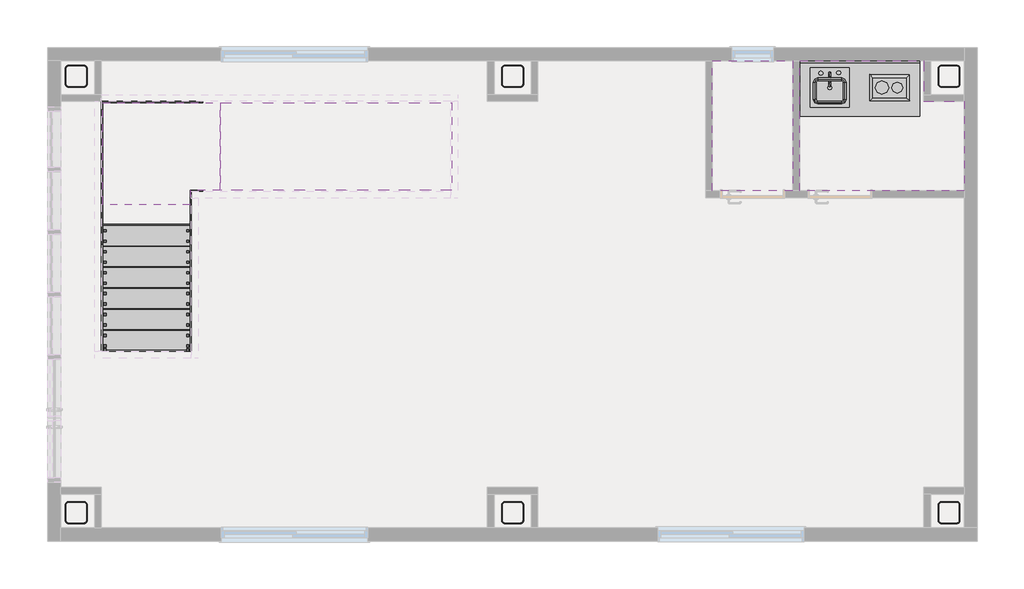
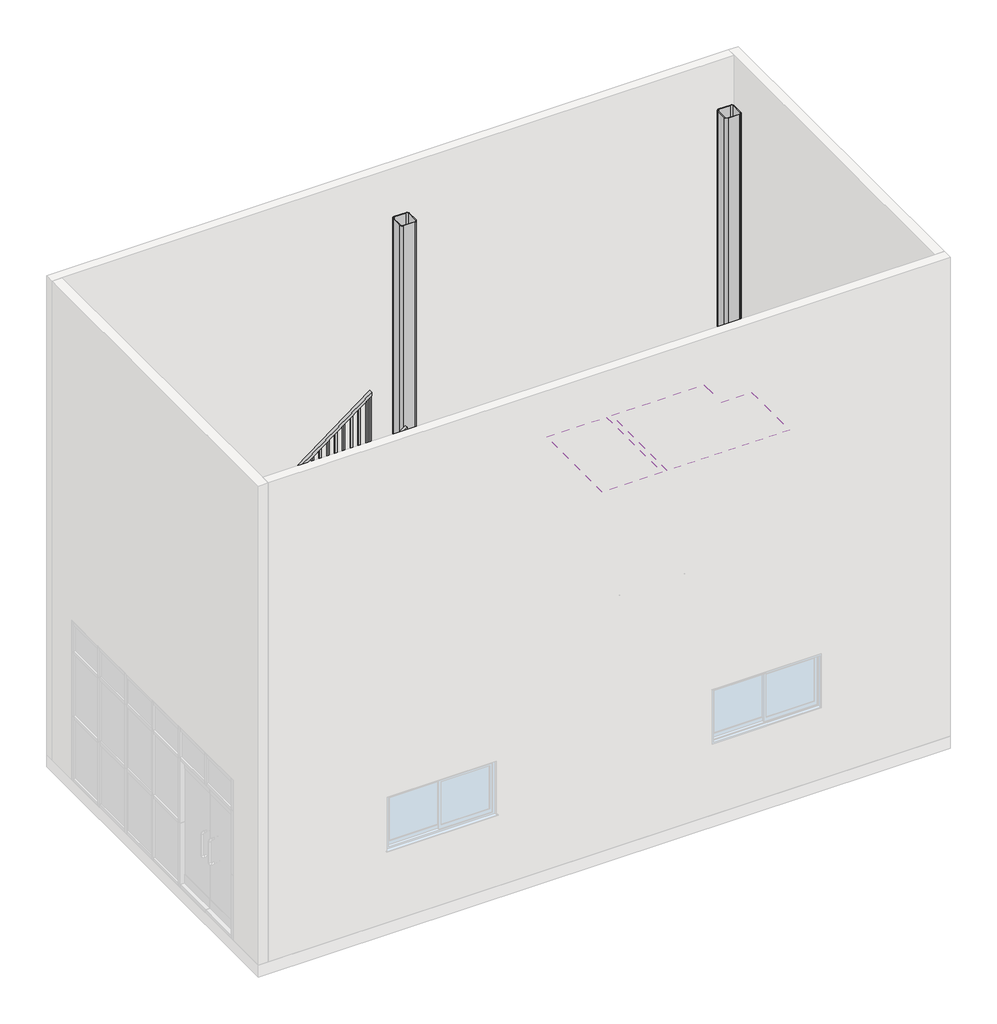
# One storey, part 2 of 2: 7 members, 6 columns, 2 coverings, 2 proxies, 2 railings, 2 stair flights, 1 flow terminal, 1 furniture element, 1 slab.
"""IFC4 building model written with IfcOpenShell, lengths in millimetres."""

from ifc_helpers import new_model, si_unit, frame, origin, place, context, project, spatial, polyline, outline, extrude, faceted_brep, transform, mapped, element, save
from components import proxy_1372mm_902c12d3, proxy_305_x_457mm_75991893, hss250x250x12_d809ddac, flow_terminal_450_x_450mm_65598b4f, furniture_600mm_61525606, slab_593adf1e, stair_flight_b28b8e51, stair_flight_15dfc8d3

model = new_model("IFC4")

# Units and contexts
model_context = context("Model", 3, world=origin())
ifc_project = project(units=[si_unit("LENGTHUNIT", "METRE", prefix="MILLI")], contexts=[model_context])

# Site, building, storey
site = spatial("IfcSite", under=ifc_project)
building = spatial("IfcBuilding", under=site)
storey = spatial("IfcBuildingStorey", under=building, Name="1階", Elevation=200.0)

# Proxies
placement = place(None, origin())
proxy_1372mm_shape = proxy_1372mm_902c12d3(model_context)
element("IfcBuildingElementProxy", 1, Name="システムキッチン - スケール(小) - 3D : 1372mm", ObjectType="システムキッチン - スケール(小) - 3D : 1372mm", at=placement, inside=storey, context=model_context, shape_type="MappedRepresentation", body=[
    mapped(proxy_1372mm_shape, transform((3909.3742386, 2761.0382733, 200.0), x_axis=(1.0, 0.0, 0.0), y_axis=(0.0, 1.0, 0.0), z_axis=(0.0, 0.0, 1.0))),
])
proxy_305_x_457mm_shape = proxy_305_x_457mm_75991893(model_context)
element("IfcBuildingElementProxy", 2, Name="レンジ台-2 ユニット : 305 x 457mm", ObjectType="レンジ台-2 ユニット : 305 x 457mm", at=placement, inside=storey, context=model_context, shape_type="MappedRepresentation", body=[
    mapped(proxy_305_x_457mm_shape, transform((4301.3367391, 2379.8382733, 240.0), x_axis=(0.0, 1.0, 0.0), y_axis=(-1.0, 0.0, 0.0), z_axis=(0.0, 0.0, 1.0))),
])

# Columns
hss250x250x12_shape = hss250x250x12_d809ddac(model_context)
element("IfcColumn", 3, ObjectType="正方型鋼管-柱 : HSS250x250x12", at=placement, inside=storey, context=model_context, shape_type="MappedRepresentation", body=[
    mapped(hss250x250x12_shape, transform((-5047.3880564, -2413.9617267, 0.0), x_axis=(-1.0, 0.0, 0.0), y_axis=(0.0, -1.0, 0.0), z_axis=(0.0, 0.0, 1.0))),
])
element("IfcColumn", 4, ObjectType="正方型鋼管-柱 : HSS250x250x12", at=placement, inside=storey, context=model_context, shape_type="MappedRepresentation", body=[
    mapped(hss250x250x12_shape, transform((-5047.3880564, 2586.0382733, 0.0), x_axis=(-1.0, 0.0, 0.0), y_axis=(0.0, -1.0, 0.0), z_axis=(0.0, 0.0, 1.0))),
])
element("IfcColumn", 5, ObjectType="正方型鋼管-柱 : HSS250x250x12", at=placement, inside=storey, context=model_context, shape_type="MappedRepresentation", body=[
    mapped(hss250x250x12_shape, transform((-47.3880564, -2413.9617267, 0.0), x_axis=(-1.0, 0.0, 0.0), y_axis=(0.0, -1.0, 0.0), z_axis=(0.0, 0.0, 1.0))),
])
element("IfcColumn", 6, ObjectType="正方型鋼管-柱 : HSS250x250x12", at=placement, inside=storey, context=model_context, shape_type="MappedRepresentation", body=[
    mapped(hss250x250x12_shape, transform((-47.3880564, 2586.0382733, 0.0), x_axis=(-1.0, 0.0, 0.0), y_axis=(0.0, -1.0, 0.0), z_axis=(0.0, 0.0, 1.0))),
])
element("IfcColumn", 7, ObjectType="正方型鋼管-柱 : HSS250x250x12", at=placement, inside=storey, context=model_context, shape_type="MappedRepresentation", body=[
    mapped(hss250x250x12_shape, transform((4952.6119436, -2413.9617267, 0.0), x_axis=(-1.0, 0.0, 0.0), y_axis=(0.0, -1.0, 0.0), z_axis=(0.0, 0.0, 1.0))),
])
element("IfcColumn", 8, ObjectType="正方型鋼管-柱 : HSS250x250x12", at=placement, inside=storey, context=model_context, shape_type="MappedRepresentation", body=[
    mapped(hss250x250x12_shape, transform((4952.6119436, 2586.0382733, 0.0), x_axis=(-1.0, 0.0, 0.0), y_axis=(0.0, -1.0, 0.0), z_axis=(0.0, 0.0, 1.0))),
])

# Coverings
element("IfcCovering", 9, ObjectType="グリッド 600x600mm", at=placement, inside=storey, context=model_context, shape_type="SweptSolid", body=[
    extrude(outline(polyline([(2242.1119436, 2761.0382733), (3163.1119436, 2761.0382733), (3163.1119436, 1275.5382733), (2242.1119436, 1275.5382733), (2242.1119436, 2761.0382733)])), frame((0.0, 0.0, 2800.0), z_axis=(0.0, 0.0, 1.0), x_axis=(1.0, 0.0, 0.0)), (0.0, 0.0, 1.0), 52.0),
])
element("IfcCovering", 10, ObjectType="グリッド 600x600mm", at=placement, inside=storey, context=model_context, shape_type="SweptSolid", body=[
    extrude(outline(polyline([(3242.1119436, 1275.5382733), (3242.1119436, 2761.0382733), (4663.1119436, 2761.0382733), (4663.1119436, 2296.5382733), (5127.6119436, 2296.5382733), (5127.6119436, 1275.5382733), (3242.1119436, 1275.5382733)])), frame((0.0, 0.0, 2800.0), z_axis=(0.0, 0.0, 1.0), x_axis=(1.0, 0.0, 0.0)), (0.0, 0.0, 1.0), 52.0),
])

# Flow terminal
flow_terminal_450_x_450mm_shape = flow_terminal_450_x_450mm_65598b4f(model_context)
element("IfcFlowTerminal", 11, ObjectType="シンク キッチン - アイランド : 450 x 450mm", at=placement, inside=storey, context=model_context, shape_type="MappedRepresentation", body=[
    mapped(flow_terminal_450_x_450mm_shape, transform((3569.422703, 2453.6928722, 240.0), x_axis=(1.0, 0.0, 0.0), y_axis=(0.0, 1.0, 0.0), z_axis=(0.0, 0.0, 1.0))),
])

# Furniture
furniture_600mm_shape = furniture_600mm_61525606(model_context)
element("IfcFurniture", 12, ObjectType="カウンタ シンク開口付 : 600mm", at=placement, inside=storey, context=model_context, shape_type="MappedRepresentation", body=[
    mapped(furniture_600mm_shape, transform((4442.5742386, 2761.0382733, 240.0), x_axis=(1.0, 0.0, 0.0), y_axis=(0.0, 1.0, 0.0), z_axis=(0.0, 0.0, 1.0))),
])

# Members
element("IfcMember", 13, ObjectType="側桁 - メタル - 15 mm 幅 50 mm 奥行き", at=placement, inside=storey, context=model_context, shape_type="SweptSolid", body=[
    extrude(outline(polyline([(-563.9617267, 200.0), (-563.9617267, 486.25), (1021.0382733, 1675.0), (1121.0382733, 1375.0), (-445.6283934, 200.0), (-563.9617267, 200.0)])), frame((-4757.8880564, 0.0, 0.0), z_axis=(1.0, 0.0, 0.0), x_axis=(0.0, 1.0, 0.0)), (0.0, 0.0, 1.0), 15.0),
])
element("IfcMember", 14, ObjectType="側桁 - メタル - 15 mm 幅 50 mm 奥行き", at=placement, inside=storey, context=model_context, shape_type="SweptSolid", body=[
    extrude(outline(polyline([(-563.9617267, 200.0), (-563.9617267, 486.25), (1021.0382733, 1675.0), (1121.0382733, 1375.0), (-445.6283934, 200.0), (-563.9617267, 200.0)])), frame((-3742.8880564, 0.0, 0.0), z_axis=(1.0, 0.0, 0.0), x_axis=(0.0, 1.0, 0.0)), (0.0, 0.0, 1.0), 15.0),
])
element("IfcMember", 15, ObjectType="側桁 - メタル - 15 mm 幅 50 mm 奥行き", at=placement, inside=storey, context=model_context, shape_type="SweptSolid", body=[
    extrude(outline(polyline([(1675.0, -3732.3880564), (1375.0, -3632.3880564), (3531.25, -757.3880564), (3906.25, -757.3880564), (1675.0, -3732.3880564)])), frame((0.0, 2281.5382733, 0.0), z_axis=(0.0, 1.0, 0.0), x_axis=(0.0, 0.0, 1.0)), (0.0, 0.0, 1.0), 15.0),
])
element("IfcMember", 16, ObjectType="側桁 - メタル - 15 mm 幅 50 mm 奥行き", at=placement, inside=storey, context=model_context, shape_type="SweptSolid", body=[
    extrude(outline(polyline([(1678.375, -3727.8880564), (1375.0, -3727.8880564), (1375.0, -3632.3880564), (3531.25, -757.3880564), (3906.25, -757.3880564), (1678.375, -3727.8880564)])), frame((0.0, 1266.5382733, 0.0), z_axis=(0.0, 1.0, 0.0), x_axis=(0.0, 0.0, 1.0)), (0.0, 0.0, 1.0), 15.0),
])
element("IfcMember", 17, ObjectType="側桁 - メタル - 15 mm 幅 50 mm 奥行き", at=placement, inside=storey, context=model_context, shape_type="Brep", body=[
    faceted_brep([(-3732.3880564, 2281.5382733, 1675.0), (-3732.3880564, 2296.5382733, 1675.0), (-4757.8880564, 2296.5382733, 1675.0), (-4742.8880564, 2281.5382733, 1675.0), (-3632.3880564, 2281.5382733, 1375.0), (-4742.8880564, 2281.5382733, 1375.0), (-3632.3880564, 2296.5382733, 1375.0), (-4757.8880564, 2296.5382733, 1375.0)], [[[0, 1, 2, 3]], [[4, 0, 3, 5]], [[6, 4, 5, 7]], [[1, 6, 7, 2]], [[1, 0, 4, 6]], [[2, 7, 5, 3]]]),
])
element("IfcMember", 18, ObjectType="側桁 - メタル - 15 mm 幅 50 mm 奥行き", at=placement, inside=storey, context=model_context, shape_type="Brep", body=[
    faceted_brep([(-4742.8880564, 2281.5382733, 1675.0), (-4757.8880564, 2296.5382733, 1675.0), (-4757.8880564, 1021.0382733, 1675.0), (-4742.8880564, 1021.0382733, 1675.0), (-4742.8880564, 2281.5382733, 1375.0), (-4742.8880564, 1121.0382733, 1375.0), (-4757.8880564, 2296.5382733, 1375.0), (-4757.8880564, 1121.0382733, 1375.0)], [[[0, 1, 2, 3]], [[4, 0, 3, 5]], [[6, 4, 5, 7]], [[1, 6, 7, 2]], [[1, 0, 4, 6]], [[2, 7, 5, 3]]]),
])
element("IfcMember", 19, ObjectType="側桁 - メタル - 15 mm 幅 50 mm 奥行き", at=placement, inside=storey, context=model_context, shape_type="SweptSolid", body=[
    extrude(outline(polyline([(1121.0382733, 1375.0), (1021.0382733, 1675.0), (1281.5382733, 1675.0), (1281.5382733, 1375.0), (1121.0382733, 1375.0)])), frame((-3742.8880564, 0.0, 0.0), z_axis=(1.0, 0.0, 0.0), x_axis=(0.0, 1.0, 0.0)), (0.0, 0.0, 1.0), 15.0),
])

# Railings
element("IfcRailing", 20, ObjectType="1100mm", at=placement, inside=storey, context=model_context, shape_type="SolidModel", body=[
    faceted_brep([(-3793.2880564, -563.9617267, 1480.0), (-3793.2880564, -563.9617267, 1417.5), (-3743.2880564, -563.9617267, 1417.5), (-3743.2880564, -563.9617267, 1480.0), (-3793.2880564, 1116.0382733, 2740.0), (-3793.2880564, 1132.7049399, 2690.0), (-3743.2880564, 1132.7049399, 2690.0), (-3743.2880564, 1116.0382733, 2740.0), (-3793.2880564, 1331.9382733, 2740.0), (-3793.2880564, 1331.9382733, 2690.0), (-3743.2880564, 1281.9382733, 2690.0), (-3743.2880564, 1281.9382733, 2740.0), (-3637.3880564, 1331.9382733, 2740.0), (-3620.7213898, 1331.9382733, 2690.0), (-3620.7213898, 1281.9382733, 2690.0), (-3637.3880564, 1281.9382733, 2740.0), (-3397.3880564, 1331.9382733, 2920.0), (-3367.3880564, 1331.9382733, 2880.0), (-3367.3880564, 1281.9382733, 2880.0), (-3397.3880564, 1281.9382733, 2920.0), (-757.3880564, 1331.9382733, 4900.0), (-757.3880564, 1281.9382733, 4900.0), (-757.3880564, 1281.9382733, 4837.5), (-757.3880564, 1331.9382733, 4837.5)], [[[0, 1, 2, 3]], [[1, 0, 4, 5]], [[2, 1, 5, 6]], [[3, 2, 6, 7]], [[0, 3, 7, 4]], [[5, 4, 8, 9]], [[6, 5, 9, 10]], [[7, 6, 10, 11]], [[4, 7, 11, 8]], [[9, 8, 12, 13]], [[10, 9, 13, 14]], [[11, 10, 14, 15]], [[8, 11, 15, 12]], [[13, 12, 16, 17]], [[14, 13, 17, 18]], [[15, 14, 18, 19]], [[12, 15, 19, 16]], [[20, 21, 22, 23]], [[17, 16, 20, 23]], [[18, 17, 23, 22]], [[19, 18, 22, 21]], [[16, 19, 21, 20]]]),
    extrude(outline(polyline([(4783.125, -829.8880564), (3620.0, -829.8880564), (3620.0, -804.8880564), (4801.875, -804.8880564), (4783.125, -829.8880564)])), frame((0.0, 1294.4382733, 0.0), z_axis=(0.0, 1.0, 0.0), x_axis=(0.0, 0.0, 1.0)), (0.0, 0.0, 1.0), 25.0),
    extrude(outline(polyline([(4693.125, -949.8880564), (3620.0, -949.8880564), (3620.0, -924.8880564), (4711.875, -924.8880564), (4693.125, -949.8880564)])), frame((0.0, 1294.4382733, 0.0), z_axis=(0.0, 1.0, 0.0), x_axis=(0.0, 0.0, 1.0)), (0.0, 0.0, 1.0), 25.0),
    extrude(outline(polyline([(4603.125, -1069.8880564), (3440.0, -1069.8880564), (3440.0, -1044.8880564), (4621.875, -1044.8880564), (4603.125, -1069.8880564)])), frame((0.0, 1294.4382733, 0.0), z_axis=(0.0, 1.0, 0.0), x_axis=(0.0, 0.0, 1.0)), (0.0, 0.0, 1.0), 25.0),
    extrude(outline(polyline([(4513.125, -1189.8880564), (3440.0, -1189.8880564), (3440.0, -1164.8880564), (4531.875, -1164.8880564), (4513.125, -1189.8880564)])), frame((0.0, 1294.4382733, 0.0), z_axis=(0.0, 1.0, 0.0), x_axis=(0.0, 0.0, 1.0)), (0.0, 0.0, 1.0), 25.0),
    extrude(outline(polyline([(4423.125, -1309.8880564), (3260.0, -1309.8880564), (3260.0, -1284.8880564), (4441.875, -1284.8880564), (4423.125, -1309.8880564)])), frame((0.0, 1294.4382733, 0.0), z_axis=(0.0, 1.0, 0.0), x_axis=(0.0, 0.0, 1.0)), (0.0, 0.0, 1.0), 25.0),
    extrude(outline(polyline([(4333.125, -1429.8880564), (3260.0, -1429.8880564), (3260.0, -1404.8880564), (4351.875, -1404.8880564), (4333.125, -1429.8880564)])), frame((0.0, 1294.4382733, 0.0), z_axis=(0.0, 1.0, 0.0), x_axis=(0.0, 0.0, 1.0)), (0.0, 0.0, 1.0), 25.0),
    extrude(outline(polyline([(4243.125, -1549.8880564), (3080.0, -1549.8880564), (3080.0, -1524.8880564), (4261.875, -1524.8880564), (4243.125, -1549.8880564)])), frame((0.0, 1294.4382733, 0.0), z_axis=(0.0, 1.0, 0.0), x_axis=(0.0, 0.0, 1.0)), (0.0, 0.0, 1.0), 25.0),
    extrude(outline(polyline([(4153.125, -1669.8880564), (3080.0, -1669.8880564), (3080.0, -1644.8880564), (4171.875, -1644.8880564), (4153.125, -1669.8880564)])), frame((0.0, 1294.4382733, 0.0), z_axis=(0.0, 1.0, 0.0), x_axis=(0.0, 0.0, 1.0)), (0.0, 0.0, 1.0), 25.0),
    extrude(outline(polyline([(4063.125, -1789.8880564), (2900.0, -1789.8880564), (2900.0, -1764.8880564), (4081.875, -1764.8880564), (4063.125, -1789.8880564)])), frame((0.0, 1294.4382733, 0.0), z_axis=(0.0, 1.0, 0.0), x_axis=(0.0, 0.0, 1.0)), (0.0, 0.0, 1.0), 25.0),
    extrude(outline(polyline([(3973.125, -1909.8880564), (2900.0, -1909.8880564), (2900.0, -1884.8880564), (3991.875, -1884.8880564), (3973.125, -1909.8880564)])), frame((0.0, 1294.4382733, 0.0), z_axis=(0.0, 1.0, 0.0), x_axis=(0.0, 0.0, 1.0)), (0.0, 0.0, 1.0), 25.0),
    extrude(outline(polyline([(3883.125, -2029.8880564), (2720.0, -2029.8880564), (2720.0, -2004.8880564), (3901.875, -2004.8880564), (3883.125, -2029.8880564)])), frame((0.0, 1294.4382733, 0.0), z_axis=(0.0, 1.0, 0.0), x_axis=(0.0, 0.0, 1.0)), (0.0, 0.0, 1.0), 25.0),
    extrude(outline(polyline([(3793.125, -2149.8880564), (2720.0, -2149.8880564), (2720.0, -2124.8880564), (3811.875, -2124.8880564), (3793.125, -2149.8880564)])), frame((0.0, 1294.4382733, 0.0), z_axis=(0.0, 1.0, 0.0), x_axis=(0.0, 0.0, 1.0)), (0.0, 0.0, 1.0), 25.0),
    extrude(outline(polyline([(3703.125, -2269.8880564), (2540.0, -2269.8880564), (2540.0, -2244.8880564), (3721.875, -2244.8880564), (3703.125, -2269.8880564)])), frame((0.0, 1294.4382733, 0.0), z_axis=(0.0, 1.0, 0.0), x_axis=(0.0, 0.0, 1.0)), (0.0, 0.0, 1.0), 25.0),
    extrude(outline(polyline([(3613.125, -2389.8880564), (2540.0, -2389.8880564), (2540.0, -2364.8880564), (3631.875, -2364.8880564), (3613.125, -2389.8880564)])), frame((0.0, 1294.4382733, 0.0), z_axis=(0.0, 1.0, 0.0), x_axis=(0.0, 0.0, 1.0)), (0.0, 0.0, 1.0), 25.0),
    extrude(outline(polyline([(3523.125, -2509.8880564), (2360.0, -2509.8880564), (2360.0, -2484.8880564), (3541.875, -2484.8880564), (3523.125, -2509.8880564)])), frame((0.0, 1294.4382733, 0.0), z_axis=(0.0, 1.0, 0.0), x_axis=(0.0, 0.0, 1.0)), (0.0, 0.0, 1.0), 25.0),
    extrude(outline(polyline([(3433.125, -2629.8880564), (2360.0, -2629.8880564), (2360.0, -2604.8880564), (3451.875, -2604.8880564), (3433.125, -2629.8880564)])), frame((0.0, 1294.4382733, 0.0), z_axis=(0.0, 1.0, 0.0), x_axis=(0.0, 0.0, 1.0)), (0.0, 0.0, 1.0), 25.0),
    extrude(outline(polyline([(3343.125, -2749.8880564), (2180.0, -2749.8880564), (2180.0, -2724.8880564), (3361.875, -2724.8880564), (3343.125, -2749.8880564)])), frame((0.0, 1294.4382733, 0.0), z_axis=(0.0, 1.0, 0.0), x_axis=(0.0, 0.0, 1.0)), (0.0, 0.0, 1.0), 25.0),
    extrude(outline(polyline([(3253.125, -2869.8880564), (2180.0, -2869.8880564), (2180.0, -2844.8880564), (3271.875, -2844.8880564), (3253.125, -2869.8880564)])), frame((0.0, 1294.4382733, 0.0), z_axis=(0.0, 1.0, 0.0), x_axis=(0.0, 0.0, 1.0)), (0.0, 0.0, 1.0), 25.0),
    extrude(outline(polyline([(3163.125, -2989.8880564), (2000.0, -2989.8880564), (2000.0, -2964.8880564), (3181.875, -2964.8880564), (3163.125, -2989.8880564)])), frame((0.0, 1294.4382733, 0.0), z_axis=(0.0, 1.0, 0.0), x_axis=(0.0, 0.0, 1.0)), (0.0, 0.0, 1.0), 25.0),
    extrude(outline(polyline([(3073.125, -3109.8880564), (2000.0, -3109.8880564), (2000.0, -3084.8880564), (3091.875, -3084.8880564), (3073.125, -3109.8880564)])), frame((0.0, 1294.4382733, 0.0), z_axis=(0.0, 1.0, 0.0), x_axis=(0.0, 0.0, 1.0)), (0.0, 0.0, 1.0), 25.0),
    extrude(outline(polyline([(2983.125, -3229.8880564), (1820.0, -3229.8880564), (1820.0, -3204.8880564), (3001.875, -3204.8880564), (2983.125, -3229.8880564)])), frame((0.0, 1294.4382733, 0.0), z_axis=(0.0, 1.0, 0.0), x_axis=(0.0, 0.0, 1.0)), (0.0, 0.0, 1.0), 25.0),
    extrude(outline(polyline([(2893.125, -3349.8880564), (1820.0, -3349.8880564), (1820.0, -3324.8880564), (2911.875, -3324.8880564), (2893.125, -3349.8880564)])), frame((0.0, 1294.4382733, 0.0), z_axis=(0.0, 1.0, 0.0), x_axis=(0.0, 0.0, 1.0)), (0.0, 0.0, 1.0), 25.0),
    extrude(outline(polyline([(2794.95, -3480.7880564), (1640.0, -3480.7880564), (1640.0, -3455.7880564), (2813.7, -3455.7880564), (2794.95, -3480.7880564)])), frame((0.0, 1294.4382733, 0.0), z_axis=(0.0, 1.0, 0.0), x_axis=(0.0, 0.0, 1.0)), (0.0, 0.0, 1.0), 25.0),
    extrude(outline(polyline([(2704.95, -3600.7880564), (1640.0, -3600.7880564), (1640.0, -3575.7880564), (2723.7, -3575.7880564), (2704.95, -3600.7880564)])), frame((0.0, 1294.4382733, 0.0), z_axis=(0.0, 1.0, 0.0), x_axis=(0.0, 0.0, 1.0)), (0.0, 0.0, 1.0), 25.0),
    extrude(outline(polyline([(-3720.7880564, 1294.4382733), (-3720.7880564, 1319.4382733), (-3695.7880564, 1319.4382733), (-3695.7880564, 1294.4382733), (-3720.7880564, 1294.4382733)])), frame((0.0, 0.0, 1640.0), z_axis=(0.0, 0.0, 1.0), x_axis=(1.0, 0.0, 0.0)), (0.0, 0.0, 1.0), 1050.0),
    extrude(outline(polyline([(-3755.7880564, 1283.5382733), (-3780.7880564, 1283.5382733), (-3780.7880564, 1308.5382733), (-3755.7880564, 1308.5382733), (-3755.7880564, 1283.5382733)])), frame((0.0, 0.0, 1640.0), z_axis=(0.0, 0.0, 1.0), x_axis=(1.0, 0.0, 0.0)), (0.0, 0.0, 1.0), 1050.0),
    extrude(outline(polyline([(-3755.7880564, 1163.5382733), (-3780.7880564, 1163.5382733), (-3780.7880564, 1188.5382733), (-3755.7880564, 1188.5382733), (-3755.7880564, 1163.5382733)])), frame((0.0, 0.0, 1640.0), z_axis=(0.0, 0.0, 1.0), x_axis=(1.0, 0.0, 0.0)), (0.0, 0.0, 1.0), 1050.0),
    extrude(outline(polyline([(1043.5382733, 1460.0), (1043.5382733, 2623.125), (1068.5382733, 2641.875), (1068.5382733, 1460.0), (1043.5382733, 1460.0)])), frame((-3780.7880564, 0.0, 0.0), z_axis=(1.0, 0.0, 0.0), x_axis=(0.0, 1.0, 0.0)), (0.0, 0.0, 1.0), 25.0),
    extrude(outline(polyline([(923.5382733, 1460.0), (923.5382733, 2533.125), (948.5382733, 2551.875), (948.5382733, 1460.0), (923.5382733, 1460.0)])), frame((-3780.7880564, 0.0, 0.0), z_axis=(1.0, 0.0, 0.0), x_axis=(0.0, 1.0, 0.0)), (0.0, 0.0, 1.0), 25.0),
    extrude(outline(polyline([(803.5382733, 1280.0), (803.5382733, 2443.125), (828.5382733, 2461.875), (828.5382733, 1280.0), (803.5382733, 1280.0)])), frame((-3780.7880564, 0.0, 0.0), z_axis=(1.0, 0.0, 0.0), x_axis=(0.0, 1.0, 0.0)), (0.0, 0.0, 1.0), 25.0),
    extrude(outline(polyline([(683.5382733, 1280.0), (683.5382733, 2353.125), (708.5382733, 2371.875), (708.5382733, 1280.0), (683.5382733, 1280.0)])), frame((-3780.7880564, 0.0, 0.0), z_axis=(1.0, 0.0, 0.0), x_axis=(0.0, 1.0, 0.0)), (0.0, 0.0, 1.0), 25.0),
    extrude(outline(polyline([(563.5382733, 1100.0), (563.5382733, 2263.125), (588.5382733, 2281.875), (588.5382733, 1100.0), (563.5382733, 1100.0)])), frame((-3780.7880564, 0.0, 0.0), z_axis=(1.0, 0.0, 0.0), x_axis=(0.0, 1.0, 0.0)), (0.0, 0.0, 1.0), 25.0),
    extrude(outline(polyline([(443.5382733, 1100.0), (443.5382733, 2173.125), (468.5382733, 2191.875), (468.5382733, 1100.0), (443.5382733, 1100.0)])), frame((-3780.7880564, 0.0, 0.0), z_axis=(1.0, 0.0, 0.0), x_axis=(0.0, 1.0, 0.0)), (0.0, 0.0, 1.0), 25.0),
    extrude(outline(polyline([(323.5382733, 920.0), (323.5382733, 2083.125), (348.5382733, 2101.875), (348.5382733, 920.0), (323.5382733, 920.0)])), frame((-3780.7880564, 0.0, 0.0), z_axis=(1.0, 0.0, 0.0), x_axis=(0.0, 1.0, 0.0)), (0.0, 0.0, 1.0), 25.0),
    extrude(outline(polyline([(203.5382733, 920.0), (203.5382733, 1993.125), (228.5382733, 2011.875), (228.5382733, 920.0), (203.5382733, 920.0)])), frame((-3780.7880564, 0.0, 0.0), z_axis=(1.0, 0.0, 0.0), x_axis=(0.0, 1.0, 0.0)), (0.0, 0.0, 1.0), 25.0),
    extrude(outline(polyline([(83.5382733, 740.0), (83.5382733, 1903.125), (108.5382733, 1921.875), (108.5382733, 740.0), (83.5382733, 740.0)])), frame((-3780.7880564, 0.0, 0.0), z_axis=(1.0, 0.0, 0.0), x_axis=(0.0, 1.0, 0.0)), (0.0, 0.0, 1.0), 25.0),
    extrude(outline(polyline([(-36.4617267, 740.0), (-36.4617267, 1813.125), (-11.4617267, 1831.875), (-11.4617267, 740.0), (-36.4617267, 740.0)])), frame((-3780.7880564, 0.0, 0.0), z_axis=(1.0, 0.0, 0.0), x_axis=(0.0, 1.0, 0.0)), (0.0, 0.0, 1.0), 25.0),
    extrude(outline(polyline([(-156.4617267, 560.0), (-156.4617267, 1723.125), (-131.4617267, 1741.875), (-131.4617267, 560.0), (-156.4617267, 560.0)])), frame((-3780.7880564, 0.0, 0.0), z_axis=(1.0, 0.0, 0.0), x_axis=(0.0, 1.0, 0.0)), (0.0, 0.0, 1.0), 25.0),
    extrude(outline(polyline([(-276.4617267, 560.0), (-276.4617267, 1633.125), (-251.4617267, 1651.875), (-251.4617267, 560.0), (-276.4617267, 560.0)])), frame((-3780.7880564, 0.0, 0.0), z_axis=(1.0, 0.0, 0.0), x_axis=(0.0, 1.0, 0.0)), (0.0, 0.0, 1.0), 25.0),
    extrude(outline(polyline([(-396.4617267, 380.0), (-396.4617267, 1543.125), (-371.4617267, 1561.875), (-371.4617267, 380.0), (-396.4617267, 380.0)])), frame((-3780.7880564, 0.0, 0.0), z_axis=(1.0, 0.0, 0.0), x_axis=(0.0, 1.0, 0.0)), (0.0, 0.0, 1.0), 25.0),
    extrude(outline(polyline([(-516.4617267, 380.0), (-516.4617267, 1453.125), (-491.4617267, 1471.875), (-491.4617267, 380.0), (-516.4617267, 380.0)])), frame((-3780.7880564, 0.0, 0.0), z_axis=(1.0, 0.0, 0.0), x_axis=(0.0, 1.0, 0.0)), (0.0, 0.0, 1.0), 25.0),
    extrude(outline(polyline([(2848.125, -3409.8880564), (1640.0, -3409.8880564), (1640.0, -3384.8880564), (2866.875, -3384.8880564), (2848.125, -3409.8880564)])), frame((0.0, 1294.4382733, 0.0), z_axis=(0.0, 1.0, 0.0), x_axis=(0.0, 0.0, 1.0)), (0.0, 0.0, 1.0), 25.0),
    extrude(outline(polyline([(-3755.7880564, 1294.4382733), (-3780.7880564, 1294.4382733), (-3780.7880564, 1319.4382733), (-3755.7880564, 1319.4382733), (-3755.7880564, 1294.4382733)])), frame((0.0, 0.0, 1640.0), z_axis=(0.0, 0.0, 1.0), x_axis=(1.0, 0.0, 0.0)), (0.0, 0.0, 1.0), 1050.0),
    extrude(outline(polyline([(1103.5382733, 1640.0), (1103.5382733, 2668.125), (1128.5382733, 2686.875), (1128.5382733, 1640.0), (1103.5382733, 1640.0)])), frame((-3780.7880564, 0.0, 0.0), z_axis=(1.0, 0.0, 0.0), x_axis=(0.0, 1.0, 0.0)), (0.0, 0.0, 1.0), 25.0),
    extrude(outline(polyline([(4818.75, -782.3880564), (3620.0, -782.3880564), (3620.0, -757.3880564), (4837.5, -757.3880564), (4818.75, -782.3880564)])), frame((0.0, 1294.4382733, 0.0), z_axis=(0.0, 1.0, 0.0), x_axis=(0.0, 0.0, 1.0)), (0.0, 0.0, 1.0), 25.0),
    extrude(outline(polyline([(-563.9617267, 380.0), (-563.9617267, 1417.5), (-538.9617267, 1436.25), (-538.9617267, 380.0), (-563.9617267, 380.0)])), frame((-3780.7880564, 0.0, 0.0), z_axis=(1.0, 0.0, 0.0), x_axis=(0.0, 1.0, 0.0)), (0.0, 0.0, 1.0), 25.0),
])
element("IfcRailing", 21, ObjectType="1100mm", at=placement, inside=storey, context=model_context, shape_type="SolidModel", body=[
    faceted_brep([(-4742.4880564, -563.9617267, 1480.0), (-4742.4880564, -563.9617267, 1417.5), (-4692.4880564, -563.9617267, 1417.5), (-4692.4880564, -563.9617267, 1480.0), (-4742.4880564, 1116.0382733, 2740.0), (-4742.4880564, 1132.7049399, 2690.0), (-4692.4880564, 1132.7049399, 2690.0), (-4692.4880564, 1116.0382733, 2740.0), (-4742.4880564, 2281.1382733, 2740.0), (-4742.4880564, 2281.1382733, 2690.0), (-4692.4880564, 2231.1382733, 2690.0), (-4692.4880564, 2231.1382733, 2740.0), (-3637.3880564, 2281.1382733, 2740.0), (-3620.7213898, 2281.1382733, 2690.0), (-3620.7213898, 2231.1382733, 2690.0), (-3637.3880564, 2231.1382733, 2740.0), (-3397.3880564, 2281.1382733, 2920.0), (-3367.3880564, 2281.1382733, 2880.0), (-3367.3880564, 2231.1382733, 2880.0), (-3397.3880564, 2231.1382733, 2920.0), (-757.3880564, 2281.1382733, 4900.0), (-757.3880564, 2231.1382733, 4900.0), (-757.3880564, 2231.1382733, 4837.5), (-757.3880564, 2281.1382733, 4837.5)], [[[0, 1, 2, 3]], [[1, 0, 4, 5]], [[2, 1, 5, 6]], [[3, 2, 6, 7]], [[0, 3, 7, 4]], [[5, 4, 8, 9]], [[6, 5, 9, 10]], [[7, 6, 10, 11]], [[4, 7, 11, 8]], [[9, 8, 12, 13]], [[10, 9, 13, 14]], [[11, 10, 14, 15]], [[8, 11, 15, 12]], [[13, 12, 16, 17]], [[14, 13, 17, 18]], [[15, 14, 18, 19]], [[12, 15, 19, 16]], [[20, 21, 22, 23]], [[17, 16, 20, 23]], [[18, 17, 23, 22]], [[19, 18, 22, 21]], [[16, 19, 21, 20]]]),
    extrude(outline(polyline([(3620.0, -829.8880564), (3620.0, -804.8880564), (4801.875, -804.8880564), (4783.125, -829.8880564), (3620.0, -829.8880564)])), frame((0.0, 2243.6382733, 0.0), z_axis=(0.0, 1.0, 0.0), x_axis=(0.0, 0.0, 1.0)), (0.0, 0.0, 1.0), 25.0),
    extrude(outline(polyline([(3620.0, -949.8880564), (3620.0, -924.8880564), (4711.875, -924.8880564), (4693.125, -949.8880564), (3620.0, -949.8880564)])), frame((0.0, 2243.6382733, 0.0), z_axis=(0.0, 1.0, 0.0), x_axis=(0.0, 0.0, 1.0)), (0.0, 0.0, 1.0), 25.0),
    extrude(outline(polyline([(3440.0, -1069.8880564), (3440.0, -1044.8880564), (4621.875, -1044.8880564), (4603.125, -1069.8880564), (3440.0, -1069.8880564)])), frame((0.0, 2243.6382733, 0.0), z_axis=(0.0, 1.0, 0.0), x_axis=(0.0, 0.0, 1.0)), (0.0, 0.0, 1.0), 25.0),
    extrude(outline(polyline([(3440.0, -1189.8880564), (3440.0, -1164.8880564), (4531.875, -1164.8880564), (4513.125, -1189.8880564), (3440.0, -1189.8880564)])), frame((0.0, 2243.6382733, 0.0), z_axis=(0.0, 1.0, 0.0), x_axis=(0.0, 0.0, 1.0)), (0.0, 0.0, 1.0), 25.0),
    extrude(outline(polyline([(3260.0, -1309.8880564), (3260.0, -1284.8880564), (4441.875, -1284.8880564), (4423.125, -1309.8880564), (3260.0, -1309.8880564)])), frame((0.0, 2243.6382733, 0.0), z_axis=(0.0, 1.0, 0.0), x_axis=(0.0, 0.0, 1.0)), (0.0, 0.0, 1.0), 25.0),
    extrude(outline(polyline([(3260.0, -1429.8880564), (3260.0, -1404.8880564), (4351.875, -1404.8880564), (4333.125, -1429.8880564), (3260.0, -1429.8880564)])), frame((0.0, 2243.6382733, 0.0), z_axis=(0.0, 1.0, 0.0), x_axis=(0.0, 0.0, 1.0)), (0.0, 0.0, 1.0), 25.0),
    extrude(outline(polyline([(3080.0, -1549.8880564), (3080.0, -1524.8880564), (4261.875, -1524.8880564), (4243.125, -1549.8880564), (3080.0, -1549.8880564)])), frame((0.0, 2243.6382733, 0.0), z_axis=(0.0, 1.0, 0.0), x_axis=(0.0, 0.0, 1.0)), (0.0, 0.0, 1.0), 25.0),
    extrude(outline(polyline([(3080.0, -1669.8880564), (3080.0, -1644.8880564), (4171.875, -1644.8880564), (4153.125, -1669.8880564), (3080.0, -1669.8880564)])), frame((0.0, 2243.6382733, 0.0), z_axis=(0.0, 1.0, 0.0), x_axis=(0.0, 0.0, 1.0)), (0.0, 0.0, 1.0), 25.0),
    extrude(outline(polyline([(2900.0, -1789.8880564), (2900.0, -1764.8880564), (4081.875, -1764.8880564), (4063.125, -1789.8880564), (2900.0, -1789.8880564)])), frame((0.0, 2243.6382733, 0.0), z_axis=(0.0, 1.0, 0.0), x_axis=(0.0, 0.0, 1.0)), (0.0, 0.0, 1.0), 25.0),
    extrude(outline(polyline([(2900.0, -1909.8880564), (2900.0, -1884.8880564), (3991.875, -1884.8880564), (3973.125, -1909.8880564), (2900.0, -1909.8880564)])), frame((0.0, 2243.6382733, 0.0), z_axis=(0.0, 1.0, 0.0), x_axis=(0.0, 0.0, 1.0)), (0.0, 0.0, 1.0), 25.0),
    extrude(outline(polyline([(2720.0, -2029.8880564), (2720.0, -2004.8880564), (3901.875, -2004.8880564), (3883.125, -2029.8880564), (2720.0, -2029.8880564)])), frame((0.0, 2243.6382733, 0.0), z_axis=(0.0, 1.0, 0.0), x_axis=(0.0, 0.0, 1.0)), (0.0, 0.0, 1.0), 25.0),
    extrude(outline(polyline([(2720.0, -2149.8880564), (2720.0, -2124.8880564), (3811.875, -2124.8880564), (3793.125, -2149.8880564), (2720.0, -2149.8880564)])), frame((0.0, 2243.6382733, 0.0), z_axis=(0.0, 1.0, 0.0), x_axis=(0.0, 0.0, 1.0)), (0.0, 0.0, 1.0), 25.0),
    extrude(outline(polyline([(2540.0, -2269.8880564), (2540.0, -2244.8880564), (3721.875, -2244.8880564), (3703.125, -2269.8880564), (2540.0, -2269.8880564)])), frame((0.0, 2243.6382733, 0.0), z_axis=(0.0, 1.0, 0.0), x_axis=(0.0, 0.0, 1.0)), (0.0, 0.0, 1.0), 25.0),
    extrude(outline(polyline([(2540.0, -2389.8880564), (2540.0, -2364.8880564), (3631.875, -2364.8880564), (3613.125, -2389.8880564), (2540.0, -2389.8880564)])), frame((0.0, 2243.6382733, 0.0), z_axis=(0.0, 1.0, 0.0), x_axis=(0.0, 0.0, 1.0)), (0.0, 0.0, 1.0), 25.0),
    extrude(outline(polyline([(2360.0, -2509.8880564), (2360.0, -2484.8880564), (3541.875, -2484.8880564), (3523.125, -2509.8880564), (2360.0, -2509.8880564)])), frame((0.0, 2243.6382733, 0.0), z_axis=(0.0, 1.0, 0.0), x_axis=(0.0, 0.0, 1.0)), (0.0, 0.0, 1.0), 25.0),
    extrude(outline(polyline([(2360.0, -2629.8880564), (2360.0, -2604.8880564), (3451.875, -2604.8880564), (3433.125, -2629.8880564), (2360.0, -2629.8880564)])), frame((0.0, 2243.6382733, 0.0), z_axis=(0.0, 1.0, 0.0), x_axis=(0.0, 0.0, 1.0)), (0.0, 0.0, 1.0), 25.0),
    extrude(outline(polyline([(2180.0, -2749.8880564), (2180.0, -2724.8880564), (3361.875, -2724.8880564), (3343.125, -2749.8880564), (2180.0, -2749.8880564)])), frame((0.0, 2243.6382733, 0.0), z_axis=(0.0, 1.0, 0.0), x_axis=(0.0, 0.0, 1.0)), (0.0, 0.0, 1.0), 25.0),
    extrude(outline(polyline([(2180.0, -2869.8880564), (2180.0, -2844.8880564), (3271.875, -2844.8880564), (3253.125, -2869.8880564), (2180.0, -2869.8880564)])), frame((0.0, 2243.6382733, 0.0), z_axis=(0.0, 1.0, 0.0), x_axis=(0.0, 0.0, 1.0)), (0.0, 0.0, 1.0), 25.0),
    extrude(outline(polyline([(2000.0, -2989.8880564), (2000.0, -2964.8880564), (3181.875, -2964.8880564), (3163.125, -2989.8880564), (2000.0, -2989.8880564)])), frame((0.0, 2243.6382733, 0.0), z_axis=(0.0, 1.0, 0.0), x_axis=(0.0, 0.0, 1.0)), (0.0, 0.0, 1.0), 25.0),
    extrude(outline(polyline([(2000.0, -3109.8880564), (2000.0, -3084.8880564), (3091.875, -3084.8880564), (3073.125, -3109.8880564), (2000.0, -3109.8880564)])), frame((0.0, 2243.6382733, 0.0), z_axis=(0.0, 1.0, 0.0), x_axis=(0.0, 0.0, 1.0)), (0.0, 0.0, 1.0), 25.0),
    extrude(outline(polyline([(1820.0, -3229.8880564), (1820.0, -3204.8880564), (3001.875, -3204.8880564), (2983.125, -3229.8880564), (1820.0, -3229.8880564)])), frame((0.0, 2243.6382733, 0.0), z_axis=(0.0, 1.0, 0.0), x_axis=(0.0, 0.0, 1.0)), (0.0, 0.0, 1.0), 25.0),
    extrude(outline(polyline([(1820.0, -3349.8880564), (1820.0, -3324.8880564), (2911.875, -3324.8880564), (2893.125, -3349.8880564), (1820.0, -3349.8880564)])), frame((0.0, 2243.6382733, 0.0), z_axis=(0.0, 1.0, 0.0), x_axis=(0.0, 0.0, 1.0)), (0.0, 0.0, 1.0), 25.0),
    extrude(outline(polyline([(1640.0, -3469.9880564), (1640.0, -3444.9880564), (2821.8, -3444.9880564), (2803.05, -3469.9880564), (1640.0, -3469.9880564)])), frame((0.0, 2243.6382733, 0.0), z_axis=(0.0, 1.0, 0.0), x_axis=(0.0, 0.0, 1.0)), (0.0, 0.0, 1.0), 25.0),
    extrude(outline(polyline([(1640.0, -3589.9880564), (1640.0, -3564.9880564), (2731.8, -3564.9880564), (2713.05, -3589.9880564), (1640.0, -3589.9880564)])), frame((0.0, 2243.6382733, 0.0), z_axis=(0.0, 1.0, 0.0), x_axis=(0.0, 0.0, 1.0)), (0.0, 0.0, 1.0), 25.0),
    extrude(outline(polyline([(-3709.9880564, 2268.6382733), (-3684.9880564, 2268.6382733), (-3684.9880564, 2243.6382733), (-3709.9880564, 2243.6382733), (-3709.9880564, 2268.6382733)])), frame((0.0, 0.0, 1640.0), z_axis=(0.0, 0.0, 1.0), x_axis=(1.0, 0.0, 0.0)), (0.0, 0.0, 1.0), 1050.0),
    extrude(outline(polyline([(-3829.9880564, 2268.6382733), (-3804.9880564, 2268.6382733), (-3804.9880564, 2243.6382733), (-3829.9880564, 2243.6382733), (-3829.9880564, 2268.6382733)])), frame((0.0, 0.0, 1640.0), z_axis=(0.0, 0.0, 1.0), x_axis=(1.0, 0.0, 0.0)), (0.0, 0.0, 1.0), 1050.0),
    extrude(outline(polyline([(-3949.9880564, 2268.6382733), (-3924.9880564, 2268.6382733), (-3924.9880564, 2243.6382733), (-3949.9880564, 2243.6382733), (-3949.9880564, 2268.6382733)])), frame((0.0, 0.0, 1640.0), z_axis=(0.0, 0.0, 1.0), x_axis=(1.0, 0.0, 0.0)), (0.0, 0.0, 1.0), 1050.0),
    extrude(outline(polyline([(-4069.9880564, 2268.6382733), (-4044.9880564, 2268.6382733), (-4044.9880564, 2243.6382733), (-4069.9880564, 2243.6382733), (-4069.9880564, 2268.6382733)])), frame((0.0, 0.0, 1640.0), z_axis=(0.0, 0.0, 1.0), x_axis=(1.0, 0.0, 0.0)), (0.0, 0.0, 1.0), 1050.0),
    extrude(outline(polyline([(-4189.9880564, 2268.6382733), (-4164.9880564, 2268.6382733), (-4164.9880564, 2243.6382733), (-4189.9880564, 2243.6382733), (-4189.9880564, 2268.6382733)])), frame((0.0, 0.0, 1640.0), z_axis=(0.0, 0.0, 1.0), x_axis=(1.0, 0.0, 0.0)), (0.0, 0.0, 1.0), 1050.0),
    extrude(outline(polyline([(-4309.9880564, 2268.6382733), (-4284.9880564, 2268.6382733), (-4284.9880564, 2243.6382733), (-4309.9880564, 2243.6382733), (-4309.9880564, 2268.6382733)])), frame((0.0, 0.0, 1640.0), z_axis=(0.0, 0.0, 1.0), x_axis=(1.0, 0.0, 0.0)), (0.0, 0.0, 1.0), 1050.0),
    extrude(outline(polyline([(-4429.9880564, 2268.6382733), (-4404.9880564, 2268.6382733), (-4404.9880564, 2243.6382733), (-4429.9880564, 2243.6382733), (-4429.9880564, 2268.6382733)])), frame((0.0, 0.0, 1640.0), z_axis=(0.0, 0.0, 1.0), x_axis=(1.0, 0.0, 0.0)), (0.0, 0.0, 1.0), 1050.0),
    extrude(outline(polyline([(-4549.9880564, 2268.6382733), (-4524.9880564, 2268.6382733), (-4524.9880564, 2243.6382733), (-4549.9880564, 2243.6382733), (-4549.9880564, 2268.6382733)])), frame((0.0, 0.0, 1640.0), z_axis=(0.0, 0.0, 1.0), x_axis=(1.0, 0.0, 0.0)), (0.0, 0.0, 1.0), 1050.0),
    extrude(outline(polyline([(-4669.9880564, 2268.6382733), (-4644.9880564, 2268.6382733), (-4644.9880564, 2243.6382733), (-4669.9880564, 2243.6382733), (-4669.9880564, 2268.6382733)])), frame((0.0, 0.0, 1640.0), z_axis=(0.0, 0.0, 1.0), x_axis=(1.0, 0.0, 0.0)), (0.0, 0.0, 1.0), 1050.0),
    extrude(outline(polyline([(-4729.9880564, 2243.5382733), (-4729.9880564, 2268.5382733), (-4704.9880564, 2268.5382733), (-4704.9880564, 2243.5382733), (-4729.9880564, 2243.5382733)])), frame((0.0, 0.0, 1640.0), z_axis=(0.0, 0.0, 1.0), x_axis=(1.0, 0.0, 0.0)), (0.0, 0.0, 1.0), 1050.0),
    extrude(outline(polyline([(-4729.9880564, 2123.5382733), (-4729.9880564, 2148.5382733), (-4704.9880564, 2148.5382733), (-4704.9880564, 2123.5382733), (-4729.9880564, 2123.5382733)])), frame((0.0, 0.0, 1640.0), z_axis=(0.0, 0.0, 1.0), x_axis=(1.0, 0.0, 0.0)), (0.0, 0.0, 1.0), 1050.0),
    extrude(outline(polyline([(-4729.9880564, 2003.5382733), (-4729.9880564, 2028.5382733), (-4704.9880564, 2028.5382733), (-4704.9880564, 2003.5382733), (-4729.9880564, 2003.5382733)])), frame((0.0, 0.0, 1640.0), z_axis=(0.0, 0.0, 1.0), x_axis=(1.0, 0.0, 0.0)), (0.0, 0.0, 1.0), 1050.0),
    extrude(outline(polyline([(-4729.9880564, 1883.5382733), (-4729.9880564, 1908.5382733), (-4704.9880564, 1908.5382733), (-4704.9880564, 1883.5382733), (-4729.9880564, 1883.5382733)])), frame((0.0, 0.0, 1640.0), z_axis=(0.0, 0.0, 1.0), x_axis=(1.0, 0.0, 0.0)), (0.0, 0.0, 1.0), 1050.0),
    extrude(outline(polyline([(-4729.9880564, 1763.5382733), (-4729.9880564, 1788.5382733), (-4704.9880564, 1788.5382733), (-4704.9880564, 1763.5382733), (-4729.9880564, 1763.5382733)])), frame((0.0, 0.0, 1640.0), z_axis=(0.0, 0.0, 1.0), x_axis=(1.0, 0.0, 0.0)), (0.0, 0.0, 1.0), 1050.0),
    extrude(outline(polyline([(-4729.9880564, 1643.5382733), (-4729.9880564, 1668.5382733), (-4704.9880564, 1668.5382733), (-4704.9880564, 1643.5382733), (-4729.9880564, 1643.5382733)])), frame((0.0, 0.0, 1640.0), z_axis=(0.0, 0.0, 1.0), x_axis=(1.0, 0.0, 0.0)), (0.0, 0.0, 1.0), 1050.0),
    extrude(outline(polyline([(-4729.9880564, 1523.5382733), (-4729.9880564, 1548.5382733), (-4704.9880564, 1548.5382733), (-4704.9880564, 1523.5382733), (-4729.9880564, 1523.5382733)])), frame((0.0, 0.0, 1640.0), z_axis=(0.0, 0.0, 1.0), x_axis=(1.0, 0.0, 0.0)), (0.0, 0.0, 1.0), 1050.0),
    extrude(outline(polyline([(-4729.9880564, 1403.5382733), (-4729.9880564, 1428.5382733), (-4704.9880564, 1428.5382733), (-4704.9880564, 1403.5382733), (-4729.9880564, 1403.5382733)])), frame((0.0, 0.0, 1640.0), z_axis=(0.0, 0.0, 1.0), x_axis=(1.0, 0.0, 0.0)), (0.0, 0.0, 1.0), 1050.0),
    extrude(outline(polyline([(-4729.9880564, 1283.5382733), (-4729.9880564, 1308.5382733), (-4704.9880564, 1308.5382733), (-4704.9880564, 1283.5382733), (-4729.9880564, 1283.5382733)])), frame((0.0, 0.0, 1640.0), z_axis=(0.0, 0.0, 1.0), x_axis=(1.0, 0.0, 0.0)), (0.0, 0.0, 1.0), 1050.0),
    extrude(outline(polyline([(-4729.9880564, 1163.5382733), (-4729.9880564, 1188.5382733), (-4704.9880564, 1188.5382733), (-4704.9880564, 1163.5382733), (-4729.9880564, 1163.5382733)])), frame((0.0, 0.0, 1640.0), z_axis=(0.0, 0.0, 1.0), x_axis=(1.0, 0.0, 0.0)), (0.0, 0.0, 1.0), 1050.0),
    extrude(outline(polyline([(1043.5382733, 2623.125), (1068.5382733, 2641.875), (1068.5382733, 1460.0), (1043.5382733, 1460.0), (1043.5382733, 2623.125)])), frame((-4729.9880564, 0.0, 0.0), z_axis=(1.0, 0.0, 0.0), x_axis=(0.0, 1.0, 0.0)), (0.0, 0.0, 1.0), 25.0),
    extrude(outline(polyline([(923.5382733, 2533.125), (948.5382733, 2551.875), (948.5382733, 1460.0), (923.5382733, 1460.0), (923.5382733, 2533.125)])), frame((-4729.9880564, 0.0, 0.0), z_axis=(1.0, 0.0, 0.0), x_axis=(0.0, 1.0, 0.0)), (0.0, 0.0, 1.0), 25.0),
    extrude(outline(polyline([(803.5382733, 2443.125), (828.5382733, 2461.875), (828.5382733, 1280.0), (803.5382733, 1280.0), (803.5382733, 2443.125)])), frame((-4729.9880564, 0.0, 0.0), z_axis=(1.0, 0.0, 0.0), x_axis=(0.0, 1.0, 0.0)), (0.0, 0.0, 1.0), 25.0),
    extrude(outline(polyline([(683.5382733, 2353.125), (708.5382733, 2371.875), (708.5382733, 1280.0), (683.5382733, 1280.0), (683.5382733, 2353.125)])), frame((-4729.9880564, 0.0, 0.0), z_axis=(1.0, 0.0, 0.0), x_axis=(0.0, 1.0, 0.0)), (0.0, 0.0, 1.0), 25.0),
    extrude(outline(polyline([(563.5382733, 2263.125), (588.5382733, 2281.875), (588.5382733, 1100.0), (563.5382733, 1100.0), (563.5382733, 2263.125)])), frame((-4729.9880564, 0.0, 0.0), z_axis=(1.0, 0.0, 0.0), x_axis=(0.0, 1.0, 0.0)), (0.0, 0.0, 1.0), 25.0),
    extrude(outline(polyline([(443.5382733, 2173.125), (468.5382733, 2191.875), (468.5382733, 1100.0), (443.5382733, 1100.0), (443.5382733, 2173.125)])), frame((-4729.9880564, 0.0, 0.0), z_axis=(1.0, 0.0, 0.0), x_axis=(0.0, 1.0, 0.0)), (0.0, 0.0, 1.0), 25.0),
    extrude(outline(polyline([(323.5382733, 2083.125), (348.5382733, 2101.875), (348.5382733, 920.0), (323.5382733, 920.0), (323.5382733, 2083.125)])), frame((-4729.9880564, 0.0, 0.0), z_axis=(1.0, 0.0, 0.0), x_axis=(0.0, 1.0, 0.0)), (0.0, 0.0, 1.0), 25.0),
    extrude(outline(polyline([(203.5382733, 1993.125), (228.5382733, 2011.875), (228.5382733, 920.0), (203.5382733, 920.0), (203.5382733, 1993.125)])), frame((-4729.9880564, 0.0, 0.0), z_axis=(1.0, 0.0, 0.0), x_axis=(0.0, 1.0, 0.0)), (0.0, 0.0, 1.0), 25.0),
    extrude(outline(polyline([(83.5382733, 1903.125), (108.5382733, 1921.875), (108.5382733, 740.0), (83.5382733, 740.0), (83.5382733, 1903.125)])), frame((-4729.9880564, 0.0, 0.0), z_axis=(1.0, 0.0, 0.0), x_axis=(0.0, 1.0, 0.0)), (0.0, 0.0, 1.0), 25.0),
    extrude(outline(polyline([(-36.4617267, 1813.125), (-11.4617267, 1831.875), (-11.4617267, 740.0), (-36.4617267, 740.0), (-36.4617267, 1813.125)])), frame((-4729.9880564, 0.0, 0.0), z_axis=(1.0, 0.0, 0.0), x_axis=(0.0, 1.0, 0.0)), (0.0, 0.0, 1.0), 25.0),
    extrude(outline(polyline([(-156.4617267, 1723.125), (-131.4617267, 1741.875), (-131.4617267, 560.0), (-156.4617267, 560.0), (-156.4617267, 1723.125)])), frame((-4729.9880564, 0.0, 0.0), z_axis=(1.0, 0.0, 0.0), x_axis=(0.0, 1.0, 0.0)), (0.0, 0.0, 1.0), 25.0),
    extrude(outline(polyline([(-276.4617267, 1633.125), (-251.4617267, 1651.875), (-251.4617267, 560.0), (-276.4617267, 560.0), (-276.4617267, 1633.125)])), frame((-4729.9880564, 0.0, 0.0), z_axis=(1.0, 0.0, 0.0), x_axis=(0.0, 1.0, 0.0)), (0.0, 0.0, 1.0), 25.0),
    extrude(outline(polyline([(-396.4617267, 1543.125), (-371.4617267, 1561.875), (-371.4617267, 380.0), (-396.4617267, 380.0), (-396.4617267, 1543.125)])), frame((-4729.9880564, 0.0, 0.0), z_axis=(1.0, 0.0, 0.0), x_axis=(0.0, 1.0, 0.0)), (0.0, 0.0, 1.0), 25.0),
    extrude(outline(polyline([(-516.4617267, 1453.125), (-491.4617267, 1471.875), (-491.4617267, 380.0), (-516.4617267, 380.0), (-516.4617267, 1453.125)])), frame((-4729.9880564, 0.0, 0.0), z_axis=(1.0, 0.0, 0.0), x_axis=(0.0, 1.0, 0.0)), (0.0, 0.0, 1.0), 25.0),
    extrude(outline(polyline([(1640.0, -3409.8880564), (1640.0, -3384.8880564), (2866.875, -3384.8880564), (2848.125, -3409.8880564), (1640.0, -3409.8880564)])), frame((0.0, 2243.6382733, 0.0), z_axis=(0.0, 1.0, 0.0), x_axis=(0.0, 0.0, 1.0)), (0.0, 0.0, 1.0), 25.0),
    extrude(outline(polyline([(-4729.9880564, 2243.6382733), (-4729.9880564, 2268.6382733), (-4704.9880564, 2268.6382733), (-4704.9880564, 2243.6382733), (-4729.9880564, 2243.6382733)])), frame((0.0, 0.0, 1640.0), z_axis=(0.0, 0.0, 1.0), x_axis=(1.0, 0.0, 0.0)), (0.0, 0.0, 1.0), 1050.0),
    extrude(outline(polyline([(1103.5382733, 2668.125), (1128.5382733, 2686.875), (1128.5382733, 1640.0), (1103.5382733, 1640.0), (1103.5382733, 2668.125)])), frame((-4729.9880564, 0.0, 0.0), z_axis=(1.0, 0.0, 0.0), x_axis=(0.0, 1.0, 0.0)), (0.0, 0.0, 1.0), 25.0),
    extrude(outline(polyline([(3620.0, -782.3880564), (3620.0, -757.3880564), (4837.5, -757.3880564), (4818.75, -782.3880564), (3620.0, -782.3880564)])), frame((0.0, 2243.6382733, 0.0), z_axis=(0.0, 1.0, 0.0), x_axis=(0.0, 0.0, 1.0)), (0.0, 0.0, 1.0), 25.0),
    extrude(outline(polyline([(-563.9617267, 1417.5), (-538.9617267, 1436.25), (-538.9617267, 380.0), (-563.9617267, 380.0), (-563.9617267, 1417.5)])), frame((-4729.9880564, 0.0, 0.0), z_axis=(1.0, 0.0, 0.0), x_axis=(0.0, 1.0, 0.0)), (0.0, 0.0, 1.0), 25.0),
])

# Slab
slab_shape = slab_593adf1e(model_context)
element("IfcSlab", 22, ObjectType="一体型ではない踊り場", at=placement, inside=storey, context=model_context, shape_type="MappedRepresentation", body=[
    mapped(slab_shape, transform((0.0, 0.0, 0.0), x_axis=(1.0, 0.0, 0.0), y_axis=(0.0, 1.0, 0.0), z_axis=(0.0, 0.0, 1.0))),
])

# Stair flights
stair_flight_shape = stair_flight_b28b8e51(model_context)
element("IfcStairFlight", 23, ObjectType="メタル階段 15 mm 踏み板 15 mm 蹴上げ", at=placement, inside=storey, context=model_context, shape_type="MappedRepresentation", body=[
    mapped(stair_flight_shape, transform((0.0, 0.0, 0.0), x_axis=(1.0, 0.0, 0.0), y_axis=(0.0, 1.0, 0.0), z_axis=(0.0, 0.0, 1.0))),
])
stair_flight_2_shape = stair_flight_15dfc8d3(model_context)
element("IfcStairFlight", 24, ObjectType="メタル階段 15 mm 踏み板 15 mm 蹴上げ", at=placement, inside=storey, context=model_context, shape_type="MappedRepresentation", body=[
    mapped(stair_flight_2_shape, transform((0.0, 0.0, 0.0), x_axis=(1.0, 0.0, 0.0), y_axis=(0.0, 1.0, 0.0), z_axis=(0.0, 0.0, 1.0))),
])

save(model, "model.ifc")
